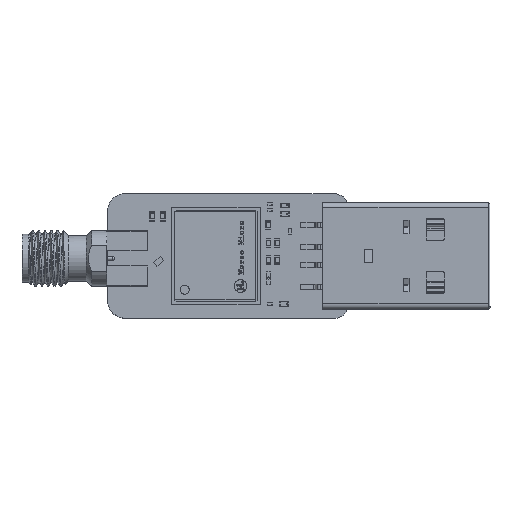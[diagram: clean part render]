
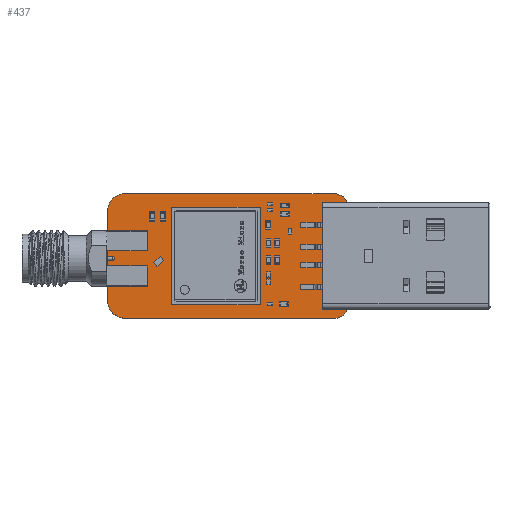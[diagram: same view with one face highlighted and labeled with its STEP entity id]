
A CAD part, top view. The second image highlights one B-rep face of the part: STEP entity #437.
In plain terms, the highlighted planar face has unit normal (0, 0, 1).
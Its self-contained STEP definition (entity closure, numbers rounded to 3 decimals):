
#172 = VERTEX_POINT('',#173);
#173 = CARTESIAN_POINT('',(1.,-5.,1.482));
#179 = EDGE_CURVE('',#172,#180,#182,.T.);
#180 = VERTEX_POINT('',#181);
#181 = CARTESIAN_POINT('',(1.,5.,1.482));
#182 = LINE('',#183,#184);
#183 = CARTESIAN_POINT('',(1.,-5.,1.482));
#184 = VECTOR('',#185,1.);
#185 = DIRECTION('',(0.,1.,0.));
#210 = EDGE_CURVE('',#180,#211,#213,.T.);
#211 = VERTEX_POINT('',#212);
#212 = CARTESIAN_POINT('',(3.,7.,1.482));
#213 = CIRCLE('',#214,2.001);
#214 = AXIS2_PLACEMENT_3D('',#215,#216,#217);
#215 = CARTESIAN_POINT('',(3.001,4.999,1.482));
#216 = DIRECTION('',(0.,0.,-1.));
#217 = DIRECTION('',(-1.,0.,0.));
#243 = EDGE_CURVE('',#211,#244,#246,.T.);
#244 = VERTEX_POINT('',#245);
#245 = CARTESIAN_POINT('',(26.475,7.,1.482));
#246 = LINE('',#247,#248);
#247 = CARTESIAN_POINT('',(3.,7.,1.482));
#248 = VECTOR('',#249,1.);
#249 = DIRECTION('',(1.,0.,0.));
#274 = EDGE_CURVE('',#244,#275,#277,.T.);
#275 = VERTEX_POINT('',#276);
#276 = CARTESIAN_POINT('',(28.05,5.425,1.482));
#277 = CIRCLE('',#278,1.574);
#278 = AXIS2_PLACEMENT_3D('',#279,#280,#281);
#279 = CARTESIAN_POINT('',(26.476,5.426,1.482));
#280 = DIRECTION('',(0.,0.,-1.));
#281 = DIRECTION('',(-0.001,1.,0.));
#307 = EDGE_CURVE('',#275,#308,#310,.T.);
#308 = VERTEX_POINT('',#309);
#309 = CARTESIAN_POINT('',(28.05,-5.5,1.482));
#310 = LINE('',#311,#312);
#311 = CARTESIAN_POINT('',(28.05,5.425,1.482));
#312 = VECTOR('',#313,1.);
#313 = DIRECTION('',(0.,-1.,0.));
#338 = EDGE_CURVE('',#308,#339,#341,.T.);
#339 = VERTEX_POINT('',#340);
#340 = CARTESIAN_POINT('',(26.55,-7.,1.482));
#341 = CIRCLE('',#342,1.499);
#342 = AXIS2_PLACEMENT_3D('',#343,#344,#345);
#343 = CARTESIAN_POINT('',(26.551,-5.501,1.482));
#344 = DIRECTION('',(0.,0.,-1.));
#345 = DIRECTION('',(1.,0.001,0.));
#371 = EDGE_CURVE('',#339,#372,#374,.T.);
#372 = VERTEX_POINT('',#373);
#373 = CARTESIAN_POINT('',(3.,-7.,1.482));
#374 = LINE('',#375,#376);
#375 = CARTESIAN_POINT('',(26.55,-7.,1.482));
#376 = VECTOR('',#377,1.);
#377 = DIRECTION('',(-1.,0.,0.));
#402 = EDGE_CURVE('',#372,#172,#403,.T.);
#403 = CIRCLE('',#404,2.001);
#404 = AXIS2_PLACEMENT_3D('',#405,#406,#407);
#405 = CARTESIAN_POINT('',(3.001,-4.999,1.482));
#406 = DIRECTION('',(0.,0.,-1.));
#407 = DIRECTION('',(0.,-1.,-0.));
#437 = ADVANCED_FACE('',(#438),#448,.F.);
#438 = FACE_BOUND('',#439,.F.);
#439 = EDGE_LOOP('',(#440,#441,#442,#443,#444,#445,#446,#447));
#440 = ORIENTED_EDGE('',*,*,#179,.T.);
#441 = ORIENTED_EDGE('',*,*,#210,.T.);
#442 = ORIENTED_EDGE('',*,*,#243,.T.);
#443 = ORIENTED_EDGE('',*,*,#274,.T.);
#444 = ORIENTED_EDGE('',*,*,#307,.T.);
#445 = ORIENTED_EDGE('',*,*,#338,.T.);
#446 = ORIENTED_EDGE('',*,*,#371,.T.);
#447 = ORIENTED_EDGE('',*,*,#402,.T.);
#448 = PLANE('',#449);
#449 = AXIS2_PLACEMENT_3D('',#450,#451,#452);
#450 = CARTESIAN_POINT('',(14.6,-0.003,
    1.482));
#451 = DIRECTION('',(-0.,-0.,-1.));
#452 = DIRECTION('',(-1.,0.,0.));
